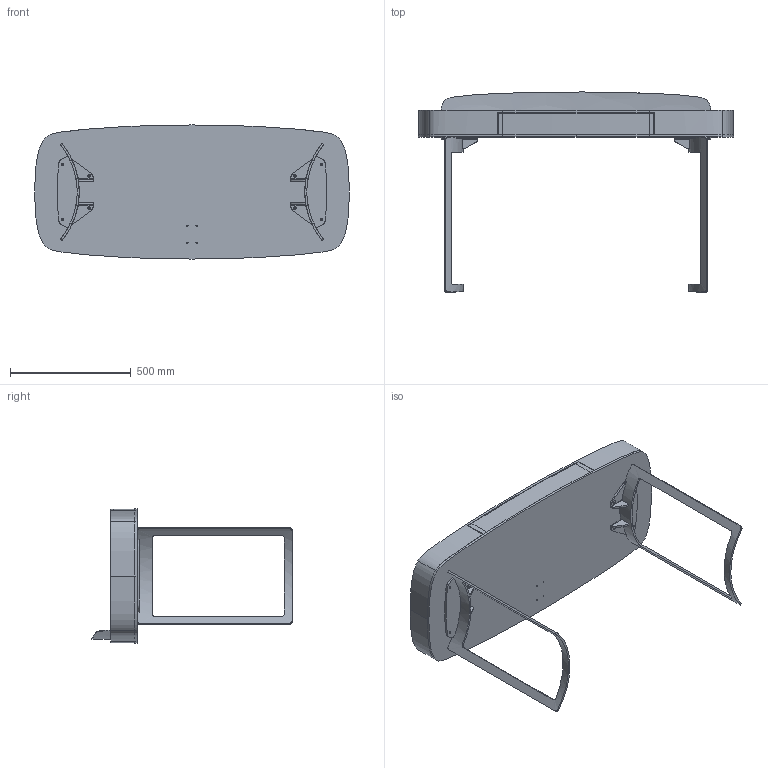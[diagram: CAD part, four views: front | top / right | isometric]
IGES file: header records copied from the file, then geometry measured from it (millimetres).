
Start section: SolidWorks IGES file using analytic representation for surfaces
Global section: file name: Y:\eforma\TECNICO\SOLIDWORKS\E-FORMA\7-SCRIVANIE\LIRA\02 parts\LY01W_Lyra Desk_130x61x75h.IGS; native system: SolidWorks 2022; preprocessor: SolidWorks 2022; author: eforma.tech; date: 240806.091631; units: millimetre
Bounding box: 1302 x 826.94 x 554 mm (x, y, z)
Volume: 52138876.4 mm3; surface area: 4901066.9 mm2
Topology: 12 solids, 12 shells, 410 faces, 1104 edges, 710 vertices
Faces by surface type: revolution 206, plane 165, bspline 39
